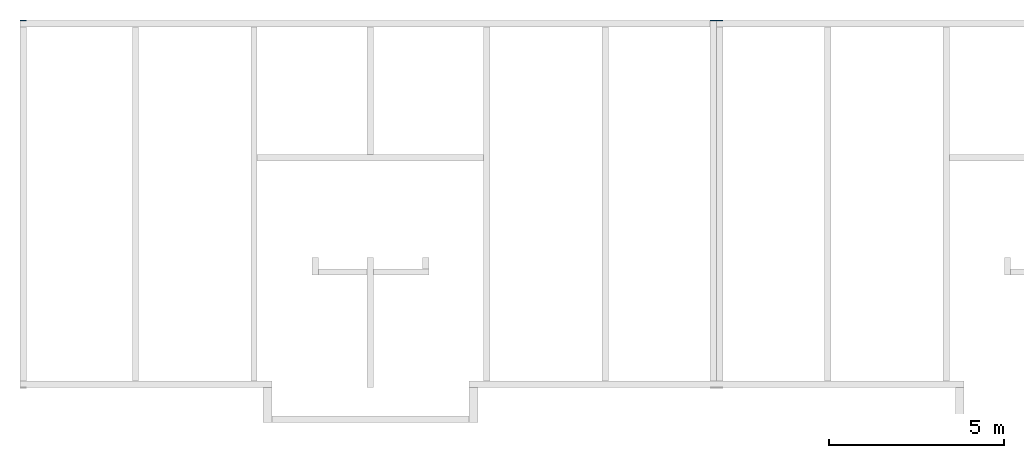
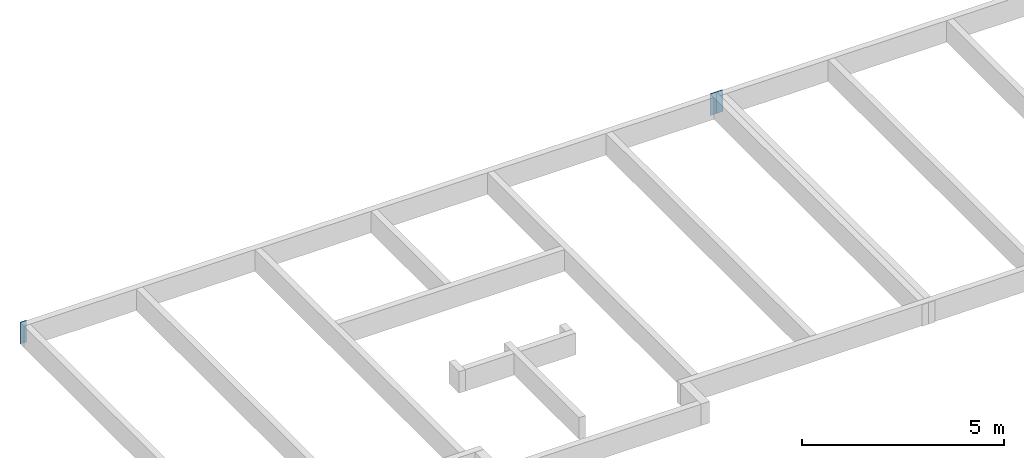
# One storey, part 4 of 6: 3 walls.
"""IFC2X3 building model written with IfcOpenShell, lengths in millimetres."""

from ifc_helpers import new_model, entity, si_unit, converted_unit, frame, frame_2d, origin, place, context, subcontext, project, spatial, rectangle, extrude, material, layer, layer_set, layer_usage, element, save


model = new_model("IFC2X3")

# Units and contexts
model_context = context("Model", 3, precision=1e-05, world=origin())
plan_context = context("Plan", 3, precision=1e-05, world=origin())
body_context = subcontext(model_context, "Body", "Model", "MODEL_VIEW")
ifc_project = project(units=[si_unit("LENGTHUNIT", "METRE", prefix="MILLI"), converted_unit("PLANEANGLEUNIT", "DEGREE", entity("IfcPlaneAngleMeasure", 0.0174532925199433), si_unit("PLANEANGLEUNIT", "RADIAN"), dimensions=[0, 0, 0, 0, 0, 0, 0]), si_unit("AREAUNIT", "SQUARE_METRE"), si_unit("VOLUMEUNIT", "CUBIC_METRE")], contexts=[model_context, plan_context])

# Building, storey
building_placement = place(None, origin())
building = spatial("IfcBuilding", under=ifc_project, at=building_placement, Name="Bâtiment", CompositionType="ELEMENT")
storey_placement = place(building_placement, frame((0.0, 0.0, -850.0), z_axis=(0.0, 0.0, 1.0), x_axis=(1.0, 0.0, 0.0)))
storey = spatial("IfcBuildingStorey", under=building, at=storey_placement, Name="vs", CompositionType="ELEMENT", Elevation=-850.0)

# Walls
ifc_material_1 = material(Name="moellons")
ifc_layer_1 = layer(ifc_material_1, 19.99999999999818)
ifc_layer_set_1 = layer_set([ifc_layer_1])
ifc_layer_usage_1 = layer_usage(ifc_layer_set_1, "AXIS2", "POSITIVE", 0.0)
wall_1_placement = place(storey_placement, frame((-3.636754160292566e-12, 10490.07776548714, 0.0), z_axis=(0.0, 0.0, 1.0), x_axis=(1.0, 0.0, 0.0)))
element("IfcWallStandardCase", 1, at=wall_1_placement, inside=storey, material=ifc_layer_usage_1, context=body_context, shape_type="SweptSolid", body=[
    extrude(rectangle(XDim=180.0, YDim=19.99999999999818, at=frame_2d((90.0, 9.99999999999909), x_axis=(1.0, 0.0))), frame((-1.2246467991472e-15, -19.99999999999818, 0.0), z_axis=(0.0, 0.0, 1.0), x_axis=(1.0, 0.0, 0.0)), (0.0, 0.0, 1.0), 650.0),
])
ifc_material_2 = material(Name="moellons")
ifc_layer_2 = layer(ifc_material_2, 20.0)
ifc_layer_set_2 = layer_set([ifc_layer_2])
ifc_layer_usage_2 = layer_usage(ifc_layer_set_2, "AXIS2", "POSITIVE", 0.0)
wall_2_placement = place(storey_placement, frame((19849.99999999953, 10490.07776548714, 0.0), z_axis=(0.0, 0.0, 1.0), x_axis=(1.0, 0.0, 0.0)))
element("IfcWallStandardCase", 2, at=wall_2_placement, inside=storey, material=ifc_layer_usage_2, context=body_context, shape_type="SweptSolid", body=[
    extrude(rectangle(XDim=180.0, YDim=20.0, at=frame_2d((90.0, 10.0), x_axis=(1.0, 0.0))), frame((0.0, -20.0, 0.0), z_axis=(0.0, 0.0, 1.0), x_axis=(1.0, 0.0, 0.0)), (0.0, 0.0, 1.0), 650.0),
])
ifc_material_3 = material(Name="moellons")
ifc_layer_3 = layer(ifc_material_3, 20.00000000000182)
ifc_layer_set_3 = layer_set([ifc_layer_3])
ifc_layer_usage_3 = layer_usage(ifc_layer_set_3, "AXIS2", "POSITIVE", 0.0)
wall_3_placement = place(storey_placement, frame((19849.99999999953, 10470.07776548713, 0.0), z_axis=(0.0, 0.0, 1.0), x_axis=(-1.0, 0.0, 0.0)))
element("IfcWallStandardCase", 3, at=wall_3_placement, inside=storey, material=ifc_layer_usage_3, context=body_context, shape_type="SweptSolid", body=[
    extrude(rectangle(XDim=180.0, YDim=20.00000000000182, at=frame_2d((90.0, 10.00000000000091), x_axis=(1.0, 0.0))), frame((0.0, -20.00000000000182, 0.0), z_axis=(0.0, 0.0, 1.0), x_axis=(1.0, 0.0, 0.0)), (0.0, 0.0, 1.0), 650.0),
])

save(model, "model.ifc")
